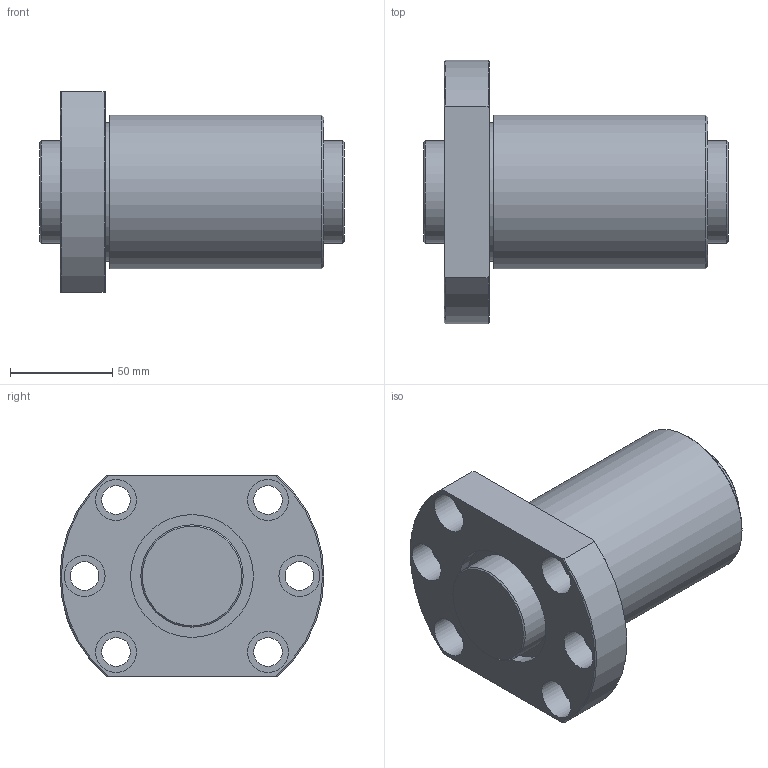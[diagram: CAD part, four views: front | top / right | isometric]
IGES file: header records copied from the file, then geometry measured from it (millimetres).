
Start section: Data from Parasolid IGES Translator 26.0.171, Copyright(c) 2006 Siemens PLM Software. All Rights Reserved.
Global section: file name: DK5016-4RRG1+149LC0_000.igs; native system: By Siemens PLM Incorporated; preprocessor: XPlus GENERIC/IGES 26.0.171; author: Noname; organization: Noname; date: 20250113.093202; units: millimetre
Bounding box: 149 x 129 x 98 mm (x, y, z)
Surface area: 108014.8 mm2 (no closed solid volume)
Topology: 0 solids, 0 shells, 46 faces, 200 edges, 178 vertices
Faces by surface type: revolution 30, extrusion 16
